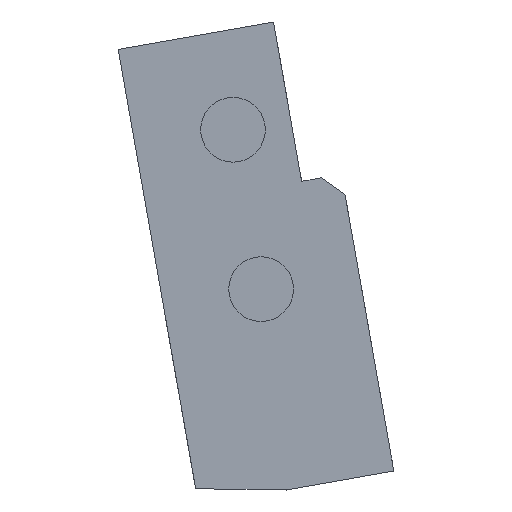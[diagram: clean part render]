
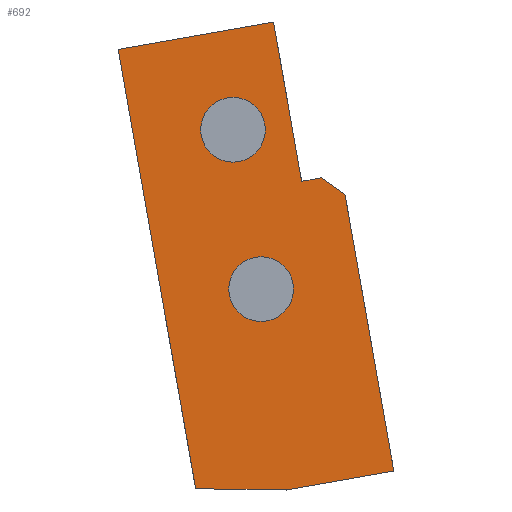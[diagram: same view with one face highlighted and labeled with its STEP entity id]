
A CAD part, left-side view. The second image highlights one B-rep face of the part: STEP entity #692.
In plain terms, the highlighted planar face has unit normal (-1, 0, 0).
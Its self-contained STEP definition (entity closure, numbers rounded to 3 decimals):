
#23=FACE_BOUND('',#109,.T.);
#24=FACE_BOUND('',#110,.T.);
#35=PLANE('',#749);
#67=FACE_OUTER_BOUND('',#108,.T.);
#108=EDGE_LOOP('',(#507,#508,#509,#510,#511,#512,#513,#514));
#109=EDGE_LOOP('',(#515));
#110=EDGE_LOOP('',(#516));
#157=LINE('',#1009,#237);
#161=LINE('',#1018,#241);
#162=LINE('',#1021,#242);
#163=LINE('',#1023,#243);
#164=LINE('',#1025,#244);
#165=LINE('',#1027,#245);
#166=LINE('',#1029,#246);
#167=LINE('',#1030,#247);
#237=VECTOR('',#811,10.);
#241=VECTOR('',#819,10.);
#242=VECTOR('',#822,10.);
#243=VECTOR('',#823,10.);
#244=VECTOR('',#824,10.);
#245=VECTOR('',#825,10.);
#246=VECTOR('',#826,10.);
#247=VECTOR('',#827,10.);
#319=CIRCLE('',#750,1.6);
#320=CIRCLE('',#751,1.6);
#336=VERTEX_POINT('',#1006);
#337=VERTEX_POINT('',#1008);
#340=VERTEX_POINT('',#1016);
#341=VERTEX_POINT('',#1020);
#342=VERTEX_POINT('',#1022);
#343=VERTEX_POINT('',#1024);
#344=VERTEX_POINT('',#1026);
#345=VERTEX_POINT('',#1028);
#346=VERTEX_POINT('',#1031);
#347=VERTEX_POINT('',#1033);
#401=EDGE_CURVE('',#337,#336,#157,.T.);
#406=EDGE_CURVE('',#340,#336,#161,.T.);
#407=EDGE_CURVE('',#340,#341,#162,.T.);
#408=EDGE_CURVE('',#341,#342,#163,.T.);
#409=EDGE_CURVE('',#343,#342,#164,.T.);
#410=EDGE_CURVE('',#343,#344,#165,.T.);
#411=EDGE_CURVE('',#344,#345,#166,.T.);
#412=EDGE_CURVE('',#345,#337,#167,.T.);
#413=EDGE_CURVE('',#346,#346,#319,.T.);
#414=EDGE_CURVE('',#347,#347,#320,.T.);
#507=ORIENTED_EDGE('',*,*,#401,.T.);
#508=ORIENTED_EDGE('',*,*,#406,.F.);
#509=ORIENTED_EDGE('',*,*,#407,.T.);
#510=ORIENTED_EDGE('',*,*,#408,.T.);
#511=ORIENTED_EDGE('',*,*,#409,.F.);
#512=ORIENTED_EDGE('',*,*,#410,.T.);
#513=ORIENTED_EDGE('',*,*,#411,.T.);
#514=ORIENTED_EDGE('',*,*,#412,.T.);
#515=ORIENTED_EDGE('',*,*,#413,.T.);
#516=ORIENTED_EDGE('',*,*,#414,.T.);
#692=ADVANCED_FACE('',(#67,#23,#24),#35,.F.);
#749=AXIS2_PLACEMENT_3D('',#1019,#820,#821);
#750=AXIS2_PLACEMENT_3D('',#1032,#828,#829);
#751=AXIS2_PLACEMENT_3D('',#1034,#830,#831);
#811=DIRECTION('',(0.,-0.174,-0.985));
#819=DIRECTION('',(0.,1.,0.014));
#820=DIRECTION('center_axis',(1.,0.,0.));
#821=DIRECTION('ref_axis',(0.,0.174,0.985));
#822=DIRECTION('',(0.,-0.985,0.174));
#823=DIRECTION('',(0.,0.174,0.985));
#824=DIRECTION('',(0.,-0.819,-0.574));
#825=DIRECTION('',(0.,0.985,-0.174));
#826=DIRECTION('',(0.,0.174,0.985));
#827=DIRECTION('',(0.,0.985,-0.174));
#828=DIRECTION('center_axis',(1.,0.,0.));
#829=DIRECTION('ref_axis',(0.,-0.985,0.174));
#830=DIRECTION('center_axis',(1.,0.,0.));
#831=DIRECTION('ref_axis',(0.,1.,0.));
#1006=CARTESIAN_POINT('',(41.226,-268.975,29.821));
#1008=CARTESIAN_POINT('',(41.226,-265.144,51.546));
#1009=CARTESIAN_POINT('',(41.226,-267.905,35.888));
#1016=CARTESIAN_POINT('',(41.226,-273.454,29.758));
#1018=CARTESIAN_POINT('',(41.226,-282.782,29.628));
#1019=CARTESIAN_POINT('Origin',(41.226,-293.767,13.031));
#1020=CARTESIAN_POINT('',(41.226,-278.772,30.696));
#1021=CARTESIAN_POINT('',(41.226,-279.707,30.861));
#1022=CARTESIAN_POINT('',(41.226,-276.358,44.385));
#1023=CARTESIAN_POINT('',(41.226,-276.497,43.597));
#1024=CARTESIAN_POINT('',(41.226,-275.2,45.196));
#1025=CARTESIAN_POINT('',(41.226,-289.275,35.34));
#1026=CARTESIAN_POINT('',(41.226,-274.215,45.022));
#1027=CARTESIAN_POINT('',(41.226,-281.946,46.385));
#1028=CARTESIAN_POINT('',(41.226,-272.826,52.901));
#1029=CARTESIAN_POINT('',(41.226,-277.245,27.837));
#1030=CARTESIAN_POINT('',(41.226,-274.795,53.248));
#1031=CARTESIAN_POINT('',(41.226,-270.634,39.415));
#1032=CARTESIAN_POINT('Origin',(41.226,-272.21,39.693));
#1033=CARTESIAN_POINT('',(41.226,-272.421,47.571));
#1034=CARTESIAN_POINT('Origin',(41.226,-270.821,47.571));
